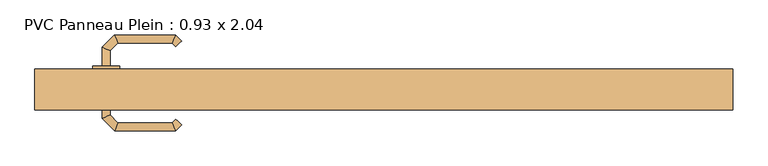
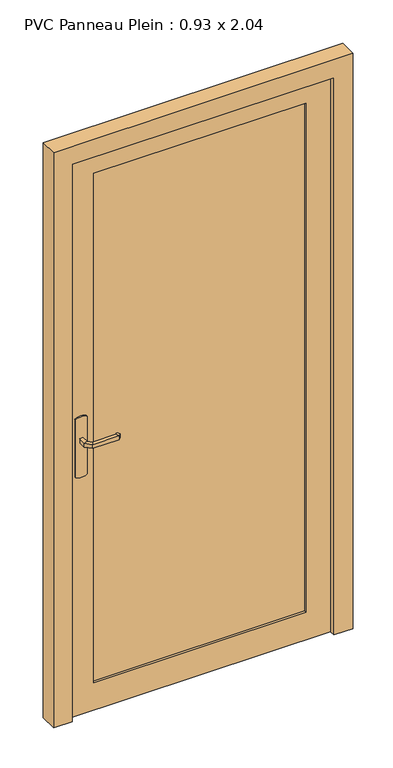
"""IFC4 building model written with IfcOpenShell, lengths in millimetres: door geometry, PVC Panneau Plein : 0.93 x 2.04."""

import ifcopenshell
import ifcopenshell.guid

model = None  # the IFC model being written
_history = None  # IfcOwnerHistory: only IFC2X3 demands one
_inside = {}  # id of a spatial element -> (the spatial element, [elements in it])
_under = {}  # id of a project, library or spatial element -> (it, [spatial elements below it])
_declared = {}  # id of a project -> (the project, [libraries it declares])
_typed = {}  # id of a type object -> (the type object, [elements of that type])
_made_of = {}  # id of a material, layer set ... -> (it, [elements and type objects made of it])


def new_model(schema):
    """Start an empty IFC model of exactly this schema.

    Asked for "IFC4X3", IfcOpenShell would pick the latest addendum, in which some entities
    have other attributes; the version numbers below select the first issue.
    IFC2X3 requires an IfcOwnerHistory on every rooted entity: one is made here for all.
    """
    global model, _history
    if schema == "IFC4X3":
        model = ifcopenshell.file(schema_version=(4, 3, 0, 0))
    else:
        model = ifcopenshell.file(schema=schema)
    _inside.clear()
    _under.clear()
    _declared.clear()
    _typed.clear()
    _made_of.clear()
    _history = None
    if model.schema == "IFC2X3":
        org = make("IfcOrganization", Name="unknown")
        user = make(
            "IfcPersonAndOrganization",
            ThePerson=make("IfcPerson", FamilyName="unknown"),
            TheOrganization=org,
        )
        app = make(
            "IfcApplication",
            ApplicationDeveloper=org,
            Version="unknown",
            ApplicationFullName="unknown",
            ApplicationIdentifier="unknown",
        )
        _history = make(
            "IfcOwnerHistory",
            OwningUser=user,
            OwningApplication=app,
            ChangeAction="ADDED",
            CreationDate=0,
        )
    return model


def make(cls, **values):
    """One entity of the class cls with the attributes given. An attribute that is None is left unset."""
    return model.create_entity(
        cls, **{name: value for name, value in values.items() if value is not None}
    )


def rooted(cls, **values):
    """An entity with a GlobalId (a new one), such as an element, a storey or a relation."""
    return make(cls, GlobalId=ifcopenshell.guid.new(), OwnerHistory=_history, **values)


def si_unit(unit_type, name, prefix=None):
    """IfcSIUnit, for example si_unit("LENGTHUNIT", "METRE", prefix="MILLI")."""
    return make("IfcSIUnit", UnitType=unit_type, Prefix=prefix, Name=name)


def assignment(units):
    """IfcUnitAssignment: the units of a project."""
    return None if units is None else make("IfcUnitAssignment", Units=units)


def point(xyz):
    """IfcCartesianPoint."""
    return None if xyz is None else make("IfcCartesianPoint", Coordinates=xyz)


def direction(xyz):
    """IfcDirection."""
    return None if xyz is None else make("IfcDirection", DirectionRatios=xyz)


def frame(location, z_axis=None, x_axis=None):
    """IfcAxis2Placement3D, a coordinate frame: its origin and axes. An axis left out is left unset."""
    return make(
        "IfcAxis2Placement3D",
        Location=point(location),
        Axis=direction(z_axis),
        RefDirection=direction(x_axis),
    )


def frame_2d(location, x_axis=None):
    """IfcAxis2Placement2D, a coordinate frame in the plane: its origin and x axis."""
    return make(
        "IfcAxis2Placement2D", Location=point(location), RefDirection=direction(x_axis)
    )


def origin():
    """The frame at (0, 0, 0) with its axes left unset."""
    return frame((0.0, 0.0, 0.0))


def place(relative_to, where):
    """IfcLocalPlacement: puts the frame where relative to a parent placement (None: the world)."""
    return make(
        "IfcLocalPlacement", PlacementRelTo=relative_to, RelativePlacement=where
    )


def context(
    kind, dimensions, precision=None, world=None, true_north=None, identifier=None
):
    """IfcGeometricRepresentationContext, for example the 3D "Model" context."""
    return make(
        "IfcGeometricRepresentationContext",
        ContextIdentifier=identifier,
        ContextType=kind,
        CoordinateSpaceDimension=dimensions,
        Precision=precision,
        WorldCoordinateSystem=world,
        TrueNorth=true_north,
    )


def project(units=None, contexts=None):
    """IfcProject with its units and contexts."""
    return rooted(
        "IfcProject",
        Name="project",
        RepresentationContexts=contexts,
        UnitsInContext=assignment(units),
    )


def spatial(cls, under=None, at=None, **own):
    """A site, building, storey or space (cls), placed at a placement, below another one or the project."""
    s = rooted(cls, ObjectPlacement=at, **own)
    if under is not None:
        _under.setdefault(under.id(), (under, []))[1].append(s)
    return s


def polyline(points):
    """IfcPolyline through the points."""
    return make("IfcPolyline", Points=[point(p) for p in points])


def circle_curve(where, radius):
    """IfcCircle in the frame where."""
    return make("IfcCircle", Position=where, Radius=radius)


def ellipse_curve(where, semi_axis1, semi_axis2):
    """IfcEllipse in the frame where."""
    return make(
        "IfcEllipse", Position=where, SemiAxis1=semi_axis1, SemiAxis2=semi_axis2
    )


def trimmed(basis, trim1, trim2, sense, master):
    """IfcTrimmedCurve: the piece of a basis curve between two trims."""
    return make(
        "IfcTrimmedCurve",
        BasisCurve=basis,
        Trim1=trim1,
        Trim2=trim2,
        SenseAgreement=sense,
        MasterRepresentation=master,
    )


def segment(curve, same_sense, transition):
    """IfcCompositeCurveSegment."""
    return make(
        "IfcCompositeCurveSegment",
        Transition=transition,
        SameSense=same_sense,
        ParentCurve=curve,
    )


def composite_curve(segments, self_intersect=None):
    """IfcCompositeCurve: segments joined end to end."""
    return make("IfcCompositeCurve", Segments=segments, SelfIntersect=self_intersect)


def outline(outer, holes=None, kind="AREA"):
    """IfcArbitraryClosedProfileDef: a profile drawn as a closed curve; with holes, ...WithVoids."""
    if holes is None:
        return make("IfcArbitraryClosedProfileDef", ProfileType=kind, OuterCurve=outer)
    return make(
        "IfcArbitraryProfileDefWithVoids",
        ProfileType=kind,
        OuterCurve=outer,
        InnerCurves=holes,
    )


def extrude(swept, where, along, depth):
    """IfcExtrudedAreaSolid: the profile swept, set in the frame where, extruded along a direction by depth."""
    return make(
        "IfcExtrudedAreaSolid",
        SweptArea=swept,
        Position=where,
        ExtrudedDirection=direction(along),
        Depth=depth,
    )


def faces_of(points, faces, orient=None, outer=None):
    """IfcFace entities. A face is a list of loops; a loop is a list of indices into points, from 0.

    orient and outer hold one flag for each loop. By default every Orientation is true, the
    first loop of a face is its IfcFaceOuterBound and the others are IfcFaceBound.
    """
    made = []
    for i, loops in enumerate(faces):
        bounds = []
        for j, loop in enumerate(loops):
            is_outer = j == 0 if outer is None else outer[i][j]
            bounds.append(
                make(
                    "IfcFaceOuterBound" if is_outer else "IfcFaceBound",
                    Bound=make("IfcPolyLoop", Polygon=[points[k] for k in loop]),
                    Orientation=True if orient is None else orient[i][j],
                )
            )
        made.append(make("IfcFace", Bounds=bounds))
    return made


def faceted_brep(points, faces, orient=None, outer=None, voids=None):
    """IfcFacetedBrep: a solid bounded by flat faces; with voids (closed shells), ...WithVoids."""
    shared = [point(p) for p in points]
    hull = make("IfcClosedShell", CfsFaces=faces_of(shared, faces, orient, outer))
    if voids is None:
        return make("IfcFacetedBrep", Outer=hull)
    return make(
        "IfcFacetedBrepWithVoids",
        Outer=hull,
        Voids=[
            make(cls, CfsFaces=faces_of(shared, fs, o, b)) for cls, fs, o, b in voids
        ],
    )


def shape(context_of_items, identifier, shape_type, items):
    """IfcShapeRepresentation: the items that make up one representation, for example the "Body"."""
    return make(
        "IfcShapeRepresentation",
        ContextOfItems=context_of_items,
        RepresentationIdentifier=identifier,
        RepresentationType=shape_type,
        Items=items,
    )


def source(mapping_origin, context_of_items, identifier, shape_type, items):
    """IfcRepresentationMap: a shape defined once, which mapped items show again and again."""
    return make(
        "IfcRepresentationMap",
        MappingOrigin=mapping_origin,
        MappedRepresentation=shape(context_of_items, identifier, shape_type, items),
    )


def transform(
    local_origin,
    x_axis=None,
    y_axis=None,
    z_axis=None,
    scale=None,
    scale2=None,
    scale3=None,
    uniform=True,
):
    """IfcCartesianTransformationOperator3D, or its non-uniform kind. x_axis, y_axis, z_axis: its Axis1, 2, 3."""
    if uniform:
        return make(
            "IfcCartesianTransformationOperator3D",
            Axis1=direction(x_axis),
            Axis2=direction(y_axis),
            LocalOrigin=point(local_origin),
            Scale=scale,
            Axis3=direction(z_axis),
        )
    return make(
        "IfcCartesianTransformationOperator3DnonUniform",
        Axis1=direction(x_axis),
        Axis2=direction(y_axis),
        LocalOrigin=point(local_origin),
        Scale=scale,
        Axis3=direction(z_axis),
        Scale2=scale2,
        Scale3=scale3,
    )


def mapped(mapping_source, mapping_target):
    """IfcMappedItem: shows the shape of a source again, moved by a transform."""
    return make(
        "IfcMappedItem", MappingSource=mapping_source, MappingTarget=mapping_target
    )


def made_of(thing, what):
    """Note that an element or type object is made of a material, layer set ...; save() writes the relation."""
    if what is not None:
        _made_of.setdefault(what.id(), (what, []))[1].append(thing)
    return thing


def element(
    cls,
    number,
    at=None,
    inside=None,
    cuts=None,
    type_object=None,
    material=None,
    context=None,
    identifier="Body",
    shape_type=None,
    held_by="IfcProductDefinitionShape",
    body=None,
    shapes=None,
    **own,
):
    """One element of the class cls, such as IfcWall. Its Tag is "e" and its number.

    at: its placement. inside: the storey or other place that contains it. cuts: it is an
    opening in that element (IfcRelVoidsElement). A single representation is given by context,
    identifier, shape_type and body (its items); several are given by shapes. held_by: the class
    of the entity that holds the representations. save() writes the other relations.
    """
    e = rooted(cls, Tag="e%d" % number, ObjectPlacement=at, **own)
    if body is not None:
        shapes = [shape(context, identifier, shape_type, body)]
    if shapes is not None:
        e.Representation = make(held_by, Representations=shapes)
    if inside is not None:
        _inside.setdefault(inside.id(), (inside, []))[1].append(e)
    if cuts is not None:
        rooted(
            "IfcRelVoidsElement", RelatingBuildingElement=cuts, RelatedOpeningElement=e
        )
    if type_object is not None:
        _typed.setdefault(type_object.id(), (type_object, []))[1].append(e)
    return made_of(e, material)


def aggregate(whole, parts):
    """IfcRelAggregates: a whole, such as a stair, and the parts it consists of."""
    return rooted("IfcRelAggregates", RelatingObject=whole, RelatedObjects=parts)


def save(model, path):
    """Write the relations noted so far, then the file.

    IfcRelAggregates (storeys below a building ...), IfcRelContainedInSpatialStructure (elements
    in a storey), IfcRelDefinesByType, IfcRelAssociatesMaterial and IfcRelDeclares: one each for
    every whole, place, type object, material and project.
    """
    for whole, parts in _under.values():
        aggregate(whole, parts)
    for where, things in _inside.values():
        rooted(
            "IfcRelContainedInSpatialStructure",
            RelatedElements=things,
            RelatingStructure=where,
        )
    for kind, things in _typed.values():
        rooted("IfcRelDefinesByType", RelatedObjects=things, RelatingType=kind)
    for what, things in _made_of.values():
        rooted("IfcRelAssociatesMaterial", RelatedObjects=things, RelatingMaterial=what)
    for by, libraries in _declared.values():
        rooted("IfcRelDeclares", RelatingContext=by, RelatedDefinitions=libraries)
    model.write(path)


def plane_surface(at):
    """IfcPlane: the flat surface through the origin of the frame at, square to its z axis."""
    return make("IfcPlane", Position=at)


def cylinder_surface(at, radius):
    """IfcCylindricalSurface: all points at the distance radius from the z axis of the frame at."""
    return make("IfcCylindricalSurface", Position=at, Radius=radius)


def advanced_brep(points, edges, surfaces, faces):
    """IfcAdvancedBrep: a solid bounded by faces that lie on surfaces and meet in shared edges.

    An edge is (start, end): straight between two places in points (the first is 0);
    or (start, end, curve); or (start, end, curve, False) where it runs against its curve.
    A face is (place in surfaces, loops), or (place, loops, False) where it looks against
    its surface's normal. A loop lists edges by number (the first is 1), with a minus sign
    where the edge is run from its end to its start. The first loop is the outer one.
    """
    corners = [point(p) for p in points]
    vertices = [make("IfcVertexPoint", VertexGeometry=c) for c in corners]
    made = []
    for start, end, *more in edges:
        made.append(
            make(
                "IfcEdgeCurve",
                EdgeStart=vertices[start],
                EdgeEnd=vertices[end],
                EdgeGeometry=more[0] if more else make("IfcPolyline", Points=[corners[start], corners[end]]),
                SameSense=more[1] if len(more) > 1 else True,
            )
        )
    hull = []
    for where, loops, *sense in faces:
        bounds = []
        for j, loop in enumerate(loops):
            ring = [make("IfcOrientedEdge", EdgeElement=made[abs(k) - 1], Orientation=k > 0) for k in loop]
            bounds.append(
                make(
                    "IfcFaceOuterBound" if j == 0 else "IfcFaceBound",
                    Bound=make("IfcEdgeLoop", EdgeList=ring),
                    Orientation=True,
                )
            )
        hull.append(make("IfcAdvancedFace", Bounds=bounds, FaceSurface=surfaces[where], SameSense=sense[0] if sense else True))
    return make("IfcAdvancedBrep", Outer=make("IfcClosedShell", CfsFaces=hull))


def pvc_panneau_plein_0_93_x_2_04_5b0e727a(model_context):
    return source(origin(), model_context, "Body", "SolidModel", [
        advanced_brep(
        [(-404.0, 48.7935702, 993.0), (-416.0, 48.7935702, 993.0), (-416.0, 48.7935702, 1007.0), (-404.0, 48.7935702, 1007.0), (-404.0, 26.3083657, 1007.0), (-404.0, 26.3083657, 993.0), (-416.0, 21.337803, 1007.0), (-416.0, 21.337803, 993.0), (-392.5147186, 14.8230843, 1007.0), (-392.5147186, 14.8230843, 993.0), (-397.4852814, 2.8230843, 1007.0), (-397.4852814, 2.8230843, 993.0), (-312.4394977, 14.8230843, 1007.0), (-312.4394977, 14.8230843, 993.0), (-307.468935, 2.8230843, 1007.0), (-307.468935, 2.8230843, 993.0), (-307.1257892, 20.1367928, 993.0), (-307.1257892, 20.1367928, 1007.0), (-298.6405078, 11.6515115, 1007.0), (-298.6405078, 11.6515115, 993.0)],
        [
            (0, 1, circle_curve(frame((-410.0, 48.7935702, 1013.0457722), z_axis=(0.0, 1.0, 0.0), x_axis=(-1.0, 0.0, 0.0)), 20.9244589)),
            (1, 2),
            (2, 3, circle_curve(frame((-410.0, 48.7935702, 986.9542278), z_axis=(0.0, 1.0, 0.0), x_axis=(-1.0, 0.0, 0.0)), 20.9244589)),
            (3, 0),
            (3, 4),
            (4, 5),
            (5, 0),
            (2, 6),
            (6, 4, ellipse_curve(frame((-410.0, 23.8230843, 986.9542278), z_axis=(-0.38268343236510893, 0.9238795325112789, 0.0), x_axis=(0.9238795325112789, 0.3826834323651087, 0.0)), 22.6484711, 20.9244589)),
            (1, 7),
            (7, 6),
            (5, 7, ellipse_curve(frame((-410.0, 23.8230843, 1013.0457722), z_axis=(-0.38268343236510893, 0.9238795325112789, 0.0), x_axis=(0.9238795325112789, 0.3826834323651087, 0.0)), 22.6484711, 20.9244589)),
            (4, 8),
            (8, 9),
            (9, 5),
            (6, 10),
            (10, 8, ellipse_curve(frame((-395.0, 8.8230843, 986.9542278), z_axis=(-0.9238795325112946, 0.38268343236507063, 0.0), x_axis=(0.3826834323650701, 0.9238795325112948, 0.0)), 22.6484711, 20.9244589)),
            (7, 11),
            (11, 10),
            (9, 11, ellipse_curve(frame((-395.0, 8.8230843, 1013.0457722), z_axis=(-0.9238795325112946, 0.38268343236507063, 0.0), x_axis=(0.3826834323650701, 0.9238795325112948, 0.0)), 22.6484711, 20.9244589)),
            (8, 12),
            (12, 13),
            (13, 9),
            (10, 14),
            (14, 12, ellipse_curve(frame((-309.9542163, 8.8230843, 986.9542278), z_axis=(-0.9238795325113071, -0.38268343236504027, 0.0), x_axis=(-0.38268343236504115, 0.9238795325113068, 0.0)), 22.6484711, 20.9244589)),
            (11, 15),
            (15, 14),
            (13, 15, ellipse_curve(frame((-309.9542163, 8.8230843, 1013.0457722), z_axis=(-0.9238795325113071, -0.38268343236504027, 0.0), x_axis=(-0.38268343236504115, 0.9238795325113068, 0.0)), 22.6484711, 20.9244589)),
            (16, 17),
            (17, 18, circle_curve(frame((-302.8831485, 15.8941521, 986.9542278), z_axis=(0.7071067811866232, 0.7071067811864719, 0.0), x_axis=(0.7071067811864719, -0.7071067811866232, 0.0)), 20.9244589)),
            (18, 19),
            (19, 16, circle_curve(frame((-302.8831485, 15.8941521, 1013.0457722), z_axis=(0.7071067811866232, 0.7071067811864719, 0.0), x_axis=(0.7071067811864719, -0.7071067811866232, 0.0)), 20.9244589)),
            (12, 17),
            (16, 13),
            (14, 18),
            (15, 19),
        ],
        [
            plane_surface(frame((-419.2195445, 48.7935702, 1000.0), z_axis=(0.0, 1.0, 0.0), x_axis=(0.0, 0.0, 1.0))),
            plane_surface(frame((-404.0, 48.7935702, 993.0), z_axis=(1.0, 0.0, 0.0), x_axis=(0.0, -1.0, 0.0))),
            cylinder_surface(frame((-410.0, 48.7935702, 986.9542278), z_axis=(0.0, 1.0, 0.0), x_axis=(-1.0, 0.0, 0.0)), 20.9244589),
            plane_surface(frame((-416.0, 48.7935702, 1007.0), z_axis=(-1.0, 0.0, 0.0), x_axis=(0.0, -1.0, 0.0))),
            cylinder_surface(frame((-410.0, 48.7935702, 1013.0457722), z_axis=(0.0, 1.0, 0.0), x_axis=(-1.0, 0.0, 0.0)), 20.9244589),
            plane_surface(frame((-404.0, 26.3083657, 993.0), z_axis=(0.707106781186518, 0.707106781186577, 0.0), x_axis=(0.707106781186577, -0.707106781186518, 0.0))),
            cylinder_surface(frame((-410.0, 23.8230843, 986.9542278), z_axis=(-0.7071067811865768, 0.7071067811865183, 0.0), x_axis=(-0.7071067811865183, -0.7071067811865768, 0.0)), 20.9244589),
            plane_surface(frame((-416.0, 21.337803, 1007.0), z_axis=(-0.7071067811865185, -0.7071067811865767, 0.0), x_axis=(0.7071067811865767, -0.7071067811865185, 0.0))),
            cylinder_surface(frame((-410.0, 23.8230843, 1013.0457722), z_axis=(-0.7071067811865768, 0.7071067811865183, 0.0), x_axis=(-0.7071067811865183, -0.7071067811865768, 0.0)), 20.9244589),
            plane_surface(frame((-392.5147186, 14.8230843, 993.0), z_axis=(0.0, 1.0, 0.0), x_axis=(1.0, 0.0, 0.0))),
            cylinder_surface(frame((-395.0, 8.8230843, 986.9542278), z_axis=(-1.0, 0.0, 0.0), x_axis=(0.0, -1.0, 0.0)), 20.9244589),
            plane_surface(frame((-397.4852814, 2.8230843, 1007.0), z_axis=(0.0, -1.0, 0.0), x_axis=(1.0, 0.0, 0.0))),
            cylinder_surface(frame((-395.0, 8.8230843, 1013.0457722), z_axis=(-1.0, 0.0, 0.0), x_axis=(0.0, -1.0, 0.0)), 20.9244589),
            plane_surface(frame((-302.8831485, 15.8941521, 990.7804555), z_axis=(0.7071067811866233, 0.7071067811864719, 0.0), x_axis=(0.7071067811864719, -0.7071067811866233, 0.0))),
            plane_surface(frame((-312.4394977, 14.8230843, 993.0), z_axis=(-0.707106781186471, 0.7071067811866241, 0.0), x_axis=(0.7071067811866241, 0.707106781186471, 0.0))),
            cylinder_surface(frame((-309.9542163, 8.8230843, 986.9542278), z_axis=(-0.7071067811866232, -0.7071067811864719, 0.0), x_axis=(0.7071067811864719, -0.7071067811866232, 0.0)), 20.9244589),
            plane_surface(frame((-307.468935, 2.8230843, 1007.0), z_axis=(0.7071067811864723, -0.7071067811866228, 0.0), x_axis=(0.7071067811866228, 0.7071067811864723, 0.0))),
            cylinder_surface(frame((-309.9542163, 8.8230843, 1013.0457722), z_axis=(-0.7071067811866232, -0.7071067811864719, 0.0), x_axis=(0.7071067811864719, -0.7071067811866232, 0.0)), 20.9244589),
        ],
        [
            (0, [[1, 2, 3, 4]]),
            (1, [[5, 6, 7, -4]]),
            (2, [[8, 9, -5, -3]]),
            (3, [[10, 11, -8, -2]]),
            (4, [[-7, 12, -10, -1]]),
            (5, [[13, 14, 15, -6]]),
            (6, [[16, 17, -13, -9]]),
            (7, [[18, 19, -16, -11]]),
            (8, [[-15, 20, -18, -12]]),
            (9, [[21, 22, 23, -14]]),
            (10, [[24, 25, -21, -17]]),
            (11, [[26, 27, -24, -19]]),
            (12, [[-23, 28, -26, -20]]),
            (13, [[29, 30, 31, 32]]),
            (14, [[33, -29, 34, -22]]),
            (15, [[35, -30, -33, -25]]),
            (16, [[36, -31, -35, -27]]),
            (17, [[-34, -32, -36, -28]]),
        ],
    ),
        advanced_brep(
        [(-416.0, 98.7935702, 1007.0), (-416.0, 98.7935702, 993.0), (-404.0, 98.7935702, 993.0), (-404.0, 98.7935702, 1007.0), (-404.0, 121.4739582, 1007.0), (-416.0, 126.4445209, 1007.0), (-404.0, 121.4739582, 993.0), (-416.0, 126.4445209, 993.0), (-392.6522273, 132.8217309, 1007.0), (-397.62279, 144.8217309, 1007.0), (-392.6522273, 132.8217309, 993.0), (-397.62279, 144.8217309, 993.0), (-312.4666408, 132.8217309, 1007.0), (-307.496078, 144.8217309, 1007.0), (-312.4666408, 132.8217309, 993.0), (-307.496078, 144.8217309, 993.0), (-298.6676509, 135.9933038, 1007.0), (-307.1529323, 127.5080224, 1007.0), (-307.1529323, 127.5080224, 993.0), (-298.6676509, 135.9933038, 993.0)],
        [
            (0, 1),
            (1, 2, circle_curve(frame((-410.0, 98.7935702, 1013.0457722), z_axis=(0.0, -1.0, 0.0), x_axis=(1.0, 0.0, 0.0)), 20.9244589)),
            (2, 3),
            (3, 0, circle_curve(frame((-410.0, 98.7935702, 986.9542278), z_axis=(0.0, -1.0, 0.0), x_axis=(1.0, 0.0, 0.0)), 20.9244589)),
            (3, 4),
            (4, 5, ellipse_curve(frame((-410.0, 123.9592395, 986.9542278), z_axis=(-0.3826834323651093, -0.9238795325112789, 0.0), x_axis=(0.9238795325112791, -0.38268343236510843, 0.0)), 22.6484711, 20.9244589)),
            (5, 0),
            (2, 6),
            (6, 4),
            (1, 7),
            (7, 6, ellipse_curve(frame((-410.0, 123.9592395, 1013.0457722), z_axis=(-0.3826834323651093, -0.9238795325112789, 0.0), x_axis=(0.9238795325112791, -0.38268343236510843, 0.0)), 22.6484711, 20.9244589)),
            (5, 7),
            (4, 8),
            (8, 9, ellipse_curve(frame((-395.1375086, 138.8217309, 986.9542278), z_axis=(-0.9238795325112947, -0.38268343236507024, 0.0), x_axis=(0.3826834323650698, -0.9238795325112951, 0.0)), 22.6484711, 20.9244589)),
            (9, 5),
            (6, 10),
            (10, 8),
            (7, 11),
            (11, 10, ellipse_curve(frame((-395.1375086, 138.8217309, 1013.0457722), z_axis=(-0.9238795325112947, -0.38268343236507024, 0.0), x_axis=(0.3826834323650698, -0.9238795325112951, 0.0)), 22.6484711, 20.9244589)),
            (9, 11),
            (8, 12),
            (12, 13, ellipse_curve(frame((-309.9813594, 138.8217309, 986.9542278), z_axis=(-0.9238795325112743, 0.3826834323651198, 0.0), x_axis=(-0.38268343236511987, -0.9238795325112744, 0.0)), 22.6484711, 20.9244589)),
            (13, 9),
            (10, 14),
            (14, 12),
            (11, 15),
            (15, 14, ellipse_curve(frame((-309.9813594, 138.8217309, 1013.0457722), z_axis=(-0.9238795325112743, 0.3826834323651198, 0.0), x_axis=(-0.38268343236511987, -0.9238795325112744, 0.0)), 22.6484711, 20.9244589)),
            (13, 15),
            (16, 17, circle_curve(frame((-302.9102916, 131.7506631, 986.9542278), z_axis=(0.7071067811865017, -0.7071067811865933, 0.0), x_axis=(-0.7071067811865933, -0.7071067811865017, 0.0)), 20.9244589)),
            (17, 18),
            (18, 19, circle_curve(frame((-302.9102916, 131.7506631, 1013.0457722), z_axis=(0.7071067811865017, -0.7071067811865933, 0.0), x_axis=(-0.7071067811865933, -0.7071067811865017, 0.0)), 20.9244589)),
            (19, 16),
            (12, 17),
            (16, 13),
            (14, 18),
            (15, 19),
        ],
        [
            plane_surface(frame((-419.2195445, 98.7935702, 1000.0), z_axis=(0.0, -1.0, 0.0), x_axis=(0.0, 0.0, -1.0))),
            cylinder_surface(frame((-410.0, 98.7935702, 986.9542278), z_axis=(0.0, -1.0, 0.0), x_axis=(1.0, 0.0, 0.0)), 20.9244589),
            plane_surface(frame((-404.0, 98.7935702, 1007.0), z_axis=(1.0, 0.0, 0.0), x_axis=(0.0, 1.0, 0.0))),
            cylinder_surface(frame((-410.0, 98.7935702, 1013.0457722), z_axis=(0.0, -1.0, 0.0), x_axis=(1.0, 0.0, 0.0)), 20.9244589),
            plane_surface(frame((-416.0, 98.7935702, 993.0), z_axis=(-1.0, 0.0, 0.0), x_axis=(0.0, 1.0, 0.0))),
            cylinder_surface(frame((-410.0, 123.9592395, 986.9542278), z_axis=(-0.7071067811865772, -0.7071067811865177, 0.0), x_axis=(0.7071067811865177, -0.7071067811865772, 0.0)), 20.9244589),
            plane_surface(frame((-404.0, 121.4739582, 1007.0), z_axis=(0.7071067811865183, -0.7071067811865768, 0.0), x_axis=(0.7071067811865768, 0.7071067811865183, 0.0))),
            cylinder_surface(frame((-410.0, 123.9592395, 1013.0457722), z_axis=(-0.7071067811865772, -0.7071067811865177, 0.0), x_axis=(0.7071067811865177, -0.7071067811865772, 0.0)), 20.9244589),
            plane_surface(frame((-416.0, 126.4445209, 993.0), z_axis=(-0.707106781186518, 0.707106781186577, 0.0), x_axis=(0.707106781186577, 0.707106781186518, 0.0))),
            cylinder_surface(frame((-395.1375086, 138.8217309, 986.9542278), z_axis=(-1.0, 0.0, 0.0), x_axis=(0.0, -1.0, 0.0)), 20.9244589),
            plane_surface(frame((-392.6522273, 132.8217309, 1007.0), z_axis=(0.0, -1.0, 0.0), x_axis=(1.0, 0.0, 0.0))),
            cylinder_surface(frame((-395.1375086, 138.8217309, 1013.0457722), z_axis=(-1.0, 0.0, 0.0), x_axis=(0.0, -1.0, 0.0)), 20.9244589),
            plane_surface(frame((-397.62279, 144.8217309, 993.0), z_axis=(0.0, 1.0, 0.0), x_axis=(1.0, 0.0, 0.0))),
            plane_surface(frame((-302.9102916, 131.7506631, 1009.2195445), z_axis=(0.7071067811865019, -0.7071067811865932, 0.0), x_axis=(0.7071067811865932, 0.7071067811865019, 0.0))),
            cylinder_surface(frame((-309.9813594, 138.8217309, 986.9542278), z_axis=(-0.7071067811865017, 0.7071067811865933, 0.0), x_axis=(-0.7071067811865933, -0.7071067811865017, 0.0)), 20.9244589),
            plane_surface(frame((-312.4666408, 132.8217309, 1007.0), z_axis=(-0.7071067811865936, -0.7071067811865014, 0.0), x_axis=(0.7071067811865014, -0.7071067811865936, 0.0))),
            cylinder_surface(frame((-309.9813594, 138.8217309, 1013.0457722), z_axis=(-0.7071067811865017, 0.7071067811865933, 0.0), x_axis=(-0.7071067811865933, -0.7071067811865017, 0.0)), 20.9244589),
            plane_surface(frame((-307.496078, 144.8217309, 993.0), z_axis=(0.707106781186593, 0.7071067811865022, 0.0), x_axis=(0.7071067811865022, -0.707106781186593, 0.0))),
        ],
        [
            (0, [[1, 2, 3, 4]]),
            (1, [[5, 6, 7, -4]]),
            (2, [[8, 9, -5, -3]]),
            (3, [[10, 11, -8, -2]]),
            (4, [[-7, 12, -10, -1]]),
            (5, [[13, 14, 15, -6]]),
            (6, [[16, 17, -13, -9]]),
            (7, [[18, 19, -16, -11]]),
            (8, [[-15, 20, -18, -12]]),
            (9, [[21, 22, 23, -14]]),
            (10, [[24, 25, -21, -17]]),
            (11, [[26, 27, -24, -19]]),
            (12, [[-23, 28, -26, -20]]),
            (13, [[29, 30, 31, 32]]),
            (14, [[33, -29, 34, -22]]),
            (15, [[35, -30, -33, -25]]),
            (16, [[36, -31, -35, -27]]),
            (17, [[-34, -32, -36, -28]]),
        ],
    ),
        extrude(outline(composite_curve([segment(trimmed(circle_curve(frame_2d((1045.3589838, -410.0)), 40.0), [point((1080.0, -390.0))], [point((1080.0, -430.0))], False, "CARTESIAN"), True, "CONTINUOUS"), segment(polyline([(1080.0, -430.0), (870.0, -430.0)]), True, "CONTINUOUS"), segment(trimmed(circle_curve(frame_2d((904.6410162, -410.0)), 40.0), [point((870.0, -430.0))], [point((870.0, -390.0))], False, "CARTESIAN"), True, "CONTINUOUS"), segment(polyline([(870.0, -390.0), (1080.0, -390.0)]), True, "CONTINUOUS")], self_intersect=False)), frame((0.0, 48.7935702, 0.0), z_axis=(0.0, 1.0, 0.0), x_axis=(0.0, 0.0, 1.0)), (0.0, 0.0, 1.0), 5.0),
        extrude(outline(composite_curve([segment(trimmed(circle_curve(frame_2d((904.6410162, -410.0)), 40.0), [point((870.0, -430.0))], [point((870.0, -390.0))], False, "CARTESIAN"), True, "CONTINUOUS"), segment(polyline([(870.0, -390.0), (1080.0, -390.0)]), True, "CONTINUOUS"), segment(trimmed(circle_curve(frame_2d((1045.3589838, -410.0)), 40.0), [point((1080.0, -390.0))], [point((1080.0, -430.0))], False, "CARTESIAN"), True, "CONTINUOUS"), segment(polyline([(1080.0, -430.0), (870.0, -430.0)]), True, "CONTINUOUS")], self_intersect=False)), frame((0.0, 93.7935702, 0.0), z_axis=(0.0, 1.0, 0.0), x_axis=(0.0, 0.0, 1.0)), (0.0, 0.0, 1.0), 5.0),
        faceted_brep([(-515.0, 93.7935702, 0.0), (-465.0, 93.7935702, 0.0), (-465.0, 53.7935702, 0.0), (-450.0, 53.7935702, 0.0), (-450.0, 33.7935702, 0.0), (-515.0, 33.7935702, 0.0), (-515.0, 33.7935702, 2090.0), (-515.0, 93.7935702, 2090.0), (-450.0, 33.7935702, 2025.0), (450.0, 33.7935702, 2025.0), (450.0, 33.7935702, 0.0), (515.0, 33.7935702, 0.0), (515.0, 33.7935702, 2090.0), (-450.0, 53.7935702, 2025.0), (-465.0, 53.7935702, 2040.0), (465.0, 53.7935702, 2040.0), (465.0, 53.7935702, 0.0), (450.0, 53.7935702, 0.0), (450.0, 53.7935702, 2025.0), (-465.0, 93.7935702, 2040.0), (515.0, 93.7935702, 2090.0), (515.0, 93.7935702, 0.0), (465.0, 93.7935702, 0.0), (465.0, 93.7935702, 2040.0)], [[[0, 1, 2, 3, 4, 5]], [[5, 6, 7, 0]], [[4, 8, 9, 10, 11, 12, 6, 5]], [[3, 13, 8, 4]], [[2, 14, 15, 16, 17, 18, 13, 3]], [[1, 19, 14, 2]], [[0, 7, 20, 21, 22, 23, 19, 1]], [[11, 21, 20, 12]], [[10, 17, 16, 22, 21, 11]], [[9, 18, 17, 10]], [[15, 23, 22, 16]], [[6, 12, 20, 7]], [[8, 13, 18, 9]], [[14, 19, 23, 15]]]),
        faceted_brep([(-465.0, 93.7935702, 2040.0), (465.0, 93.7935702, 2040.0), (465.0, 93.7935702, 0.0), (-465.0, 93.7935702, 0.0), (365.0, 93.7935702, 1950.0), (-365.0, 93.7935702, 1950.0), (-365.0, 93.7935702, 100.0), (365.0, 93.7935702, 100.0), (-465.0, 53.7935702, 2040.0), (-465.0, 53.7935702, 0.0), (465.0, 53.7935702, 0.0), (465.0, 53.7935702, 2040.0), (-365.0, 53.7935702, 1950.0), (365.0, 53.7935702, 1950.0), (365.0, 53.7935702, 100.0), (-365.0, 53.7935702, 100.0), (365.0, 85.7935702, 1950.0), (365.0, 85.7935702, 100.0), (-365.0, 85.7935702, 100.0), (-365.0, 85.7935702, 1950.0), (-365.0, 61.7935702, 1950.0), (-365.0, 61.7935702, 100.0), (365.0, 61.7935702, 100.0), (365.0, 61.7935702, 1950.0)], [[[0, 1, 2, 3], [4, 5, 6, 7]], [[8, 9, 10, 11], [12, 13, 14, 15]], [[3, 9, 8, 0]], [[2, 10, 9, 3]], [[1, 11, 10, 2]], [[0, 8, 11, 1]], [[16, 17, 18, 19]], [[16, 4, 7, 17]], [[17, 7, 6, 18]], [[18, 6, 5, 19]], [[19, 5, 4, 16]], [[20, 21, 22, 23]], [[20, 12, 15, 21]], [[21, 15, 14, 22]], [[22, 14, 13, 23]], [[23, 13, 12, 20]]]),
    ])


if __name__ == "__main__":
    model = new_model("IFC4")
    model_context = context("Model", 3, world=origin())
    ifc_project = project(units=[si_unit("LENGTHUNIT", "METRE", prefix="MILLI")], contexts=[model_context])
    site = spatial("IfcSite", under=ifc_project)
    building = spatial("IfcBuilding", under=site)
    placement = place(None, origin())
    pvc_panneau_plein_0_93_x_2_04_shape = pvc_panneau_plein_0_93_x_2_04_5b0e727a(model_context)
    element("IfcDoor", 1, ObjectType="PVC Panneau Plein : 0.93 x 2.04", at=placement, inside=building, context=model_context, shape_type="MappedRepresentation", body=[
        mapped(pvc_panneau_plein_0_93_x_2_04_shape, transform((0.0, 0.0, 0.0), x_axis=(1.0, 0.0, 0.0), y_axis=(0.0, 1.0, 0.0), z_axis=(0.0, 0.0, 1.0))),
    ])
    save(model, "model.ifc")
